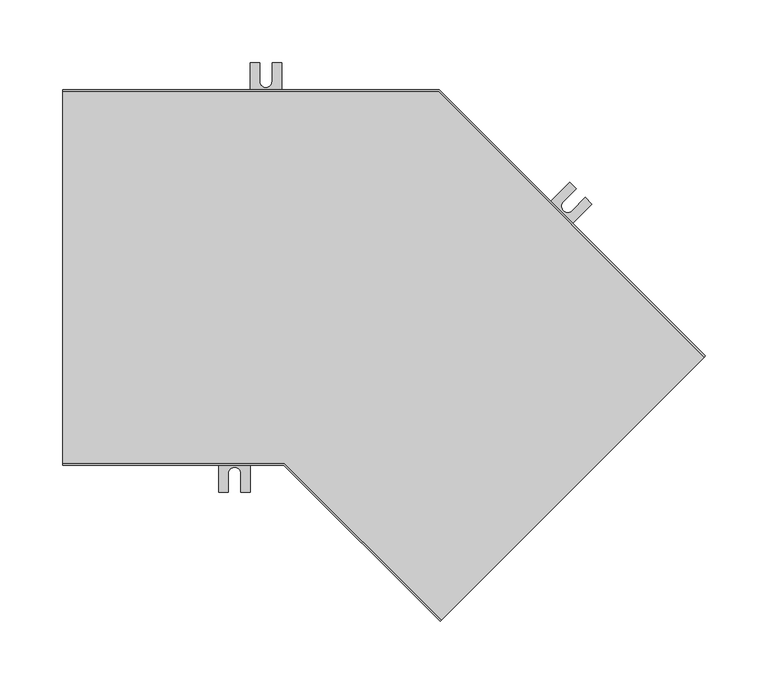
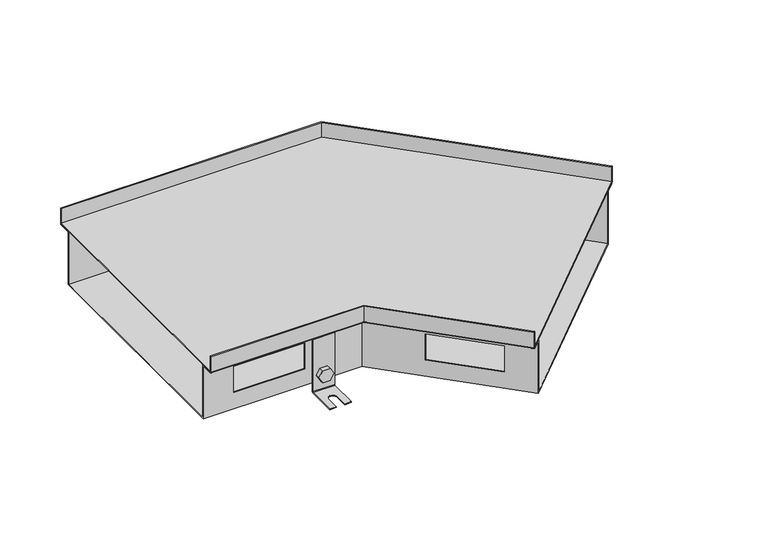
"""IFC4 building model written with IfcOpenShell, lengths in millimetres: proxy geometry, TECHNO_Угловой элемент_KVU : 300_085_135°."""

from ifc_helpers import new_model, si_unit, point, frame, frame_2d, origin, place, context, project, spatial, polyline, circle_curve, ellipse_curve, trimmed, segment, composite_curve, outline, extrude, source, transform, mapped, element, save
from ifc_brep_helpers import plane_surface, cylinder_surface, revolved_surface, advanced_brep


def mechanical_equipment_76edeb39(model_context):
    return source(origin(), model_context, "Body", "SolidModel", [
        extrude(outline(composite_curve([segment(trimmed(circle_curve(frame_2d((0.0, -7.5000001)), 7.5), [point((0.0, -15.0))], [point((0.0, 0.0))], False, "CARTESIAN"), True, "CONTINUOUS"), segment(trimmed(circle_curve(frame_2d((0.0, -7.5000001)), 7.5), [point((0.0, 0.0))], [point((0.0, -15.0))], False, "CARTESIAN"), True, "CONTINUOUS")], self_intersect=False)), frame((361.7404725, -31.0900467, -75.5), z_axis=(0.7071067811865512, 0.7071067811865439, 0.0), x_axis=(0.0, 0.0, 1.0)), (0.0, 0.0, 1.0), 1.5),
        extrude(outline(polyline([(0.0, 0.0), (8.660254, 1e-07), (12.990381, -7.5), (8.660254, -15.0), (0.0, -15.0), (-4.3301271, -7.4999999), (0.0, 0.0)])), frame((345.8586746, -24.1177942, -75.5), z_axis=(0.7071067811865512, 0.7071067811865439, 0.0), x_axis=(0.3535533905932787, -0.3535533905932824, -0.8660254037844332)), (0.0, 0.0, 1.0), 5.1),
        advanced_brep(
        [(364.4274783, -35.4741087, -30.5), (364.4274783, -35.4741087, -93.5), (363.8617928, -36.0397941, -94.3), (340.5272691, -59.3743179, -94.3), (340.5272691, -59.3743179, -95.5), (363.8617928, -36.0397941, -95.5), (365.2760064, -34.6255806, -93.5), (365.2760064, -34.6255806, -30.5), (346.7498087, -17.7964392, -30.5), (347.5983369, -16.947911, -30.5), (347.5983369, -16.947911, -93.5), (346.1841233, -18.3621246, -95.5), (322.8495995, -41.6966484, -95.5), (322.8495995, -41.6966484, -94.3), (346.1841233, -18.3621246, -94.3), (346.7498087, -17.7964392, -93.5), (328.1529004, -46.9999492, -94.3), (338.7595021, -36.3933475, -94.3), (345.8305699, -43.4644153, -94.3), (335.2239682, -54.0710171, -94.3), (335.2239682, -54.0710171, -95.5), (328.1529004, -46.9999492, -95.5), (345.8305699, -43.4644153, -95.5), (338.7595021, -36.3933475, -95.5)],
        [
            (0, 1),
            (1, 2, circle_curve(frame((363.8617928, -36.0397941, -93.5), z_axis=(-0.7071067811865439, 0.7071067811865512, 0.0), x_axis=(-0.7071067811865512, -0.7071067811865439, 0.0)), 0.8)),
            (2, 3),
            (3, 4),
            (4, 5),
            (5, 6, circle_curve(frame((363.8617928, -36.0397941, -93.5), z_axis=(0.7071067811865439, -0.7071067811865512, 0.0), x_axis=(-0.7071067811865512, -0.7071067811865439, 0.0)), 2.0)),
            (6, 7),
            (7, 0),
            (8, 9),
            (9, 10),
            (10, 11, circle_curve(frame((346.1841233, -18.3621246, -93.5), z_axis=(-0.7071067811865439, 0.7071067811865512, 0.0), x_axis=(-0.7071067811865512, -0.7071067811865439, 0.0)), 2.0)),
            (11, 12),
            (12, 13),
            (13, 14),
            (14, 15, circle_curve(frame((346.1841233, -18.3621246, -93.5), z_axis=(0.7071067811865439, -0.7071067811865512, 0.0), x_axis=(-0.7071067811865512, -0.7071067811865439, 0.0)), 0.8)),
            (15, 8),
            (0, 8),
            (15, 1),
            (14, 2),
            (13, 16),
            (16, 17),
            (17, 18, circle_curve(frame((342.295036, -39.9288814, -94.3), z_axis=(0.0, 0.0, -1.0), x_axis=(0.7071067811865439, -0.7071067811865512, 0.0)), 5.0)),
            (18, 19),
            (19, 3),
            (19, 20),
            (20, 4),
            (12, 21),
            (21, 16),
            (20, 22),
            (22, 23, circle_curve(frame((342.295036, -39.9288814, -95.5), z_axis=(0.0, 0.0, 1.0), x_axis=(0.7071067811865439, -0.7071067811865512, 0.0)), 5.0)),
            (23, 21),
            (11, 5),
            (10, 6),
            (9, 7),
            (23, 17),
            (18, 22),
        ],
        [
            plane_surface(frame((364.4274783, -35.4741087, -30.5), z_axis=(0.7071067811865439, -0.7071067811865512, 0.0), x_axis=(0.0, 0.0, -1.0))),
            plane_surface(frame((346.7498087, -17.7964392, -30.5), z_axis=(-0.7071067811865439, 0.7071067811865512, 0.0), x_axis=(0.0, 0.0, 1.0))),
            plane_surface(frame((364.4274783, -35.4741087, -30.5), z_axis=(-0.7071067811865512, -0.7071067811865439, 0.0), x_axis=(-0.7071067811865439, 0.7071067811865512, 0.0))),
            revolved_surface(polyline([(345.61843787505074, -18.92781002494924, -93.5), (363.29610742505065, -36.605479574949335, -93.5)]), (346.1841233, -18.3621246, -93.5), (-0.7071067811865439, 0.7071067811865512, 0.0)),
            plane_surface(frame((363.8617928, -36.0397941, -94.3), z_axis=(0.0, 0.0, 1.0), x_axis=(-0.7071067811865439, 0.7071067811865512, 0.0))),
            plane_surface(frame((340.5272691, -59.3743179, -94.3), z_axis=(-0.7071067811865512, -0.7071067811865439, 0.0), x_axis=(-0.7071067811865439, 0.7071067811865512, 0.0))),
            plane_surface(frame((340.5272691, -59.3743179, -95.5), z_axis=(0.0, 0.0, -1.0), x_axis=(-0.7071067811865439, 0.7071067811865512, 0.0))),
            cylinder_surface(frame((346.1841233, -18.3621246, -93.5), z_axis=(0.7071067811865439, -0.7071067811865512, 0.0), x_axis=(-0.7071067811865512, -0.7071067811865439, 0.0)), 2.0),
            plane_surface(frame((365.2760064, -34.6255806, -93.5), z_axis=(0.7071067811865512, 0.7071067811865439, 0.0), x_axis=(-0.7071067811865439, 0.7071067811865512, 0.0))),
            plane_surface(frame((365.2760064, -34.6255806, -30.5), z_axis=(0.0, 0.0, 1.0), x_axis=(-0.7071067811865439, 0.7071067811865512, 0.0))),
            plane_surface(frame((338.7595021, -36.3933475, -94.3), z_axis=(0.7071067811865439, -0.7071067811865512, 0.0), x_axis=(0.0, 0.0, -1.0))),
            plane_surface(frame((335.2239682, -54.0710171, -94.3), z_axis=(-0.707106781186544, 0.7071067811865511, 0.0), x_axis=(0.0, 0.0, -1.0))),
            revolved_surface(polyline([(345.8305699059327, -43.46441530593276, -94.3), (345.8305699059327, -43.46441530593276, -95.5)]), (342.295036, -39.9288814, -95.5), (0.0, 0.0, 1.0)),
        ],
        [
            (0, [[1, 2, 3, 4, 5, 6, 7, 8]]),
            (1, [[9, 10, 11, 12, 13, 14, 15, 16]]),
            (2, [[-1, 17, -16, 18]]),
            (3, [[-2, -18, -15, 19]]),
            (4, [[-3, -19, -14, 20, 21, 22, 23, 24]]),
            (5, [[-4, -24, 25, 26]]),
            (5, [[-13, 27, 28, -20]]),
            (6, [[-5, -26, 29, 30, 31, -27, -12, 32]]),
            (7, [[-6, -32, -11, 33]]),
            (8, [[-7, -33, -10, 34]]),
            (9, [[-8, -34, -9, -17]]),
            (10, [[35, -21, -28, -31]]),
            (11, [[36, -29, -25, -23]]),
            (12, [[-35, -30, -36, -22]]),
        ],
    ),
        extrude(outline(composite_curve([segment(trimmed(circle_curve(frame_2d((0.0, -7.5)), 7.5), [point((0.0, -15.0))], [point((0.0, 0.0))], False, "CARTESIAN"), True, "CONTINUOUS"), segment(trimmed(circle_curve(frame_2d((0.0, -7.5)), 7.5), [point((0.0, 0.0))], [point((0.0, -15.0))], False, "CARTESIAN"), True, "CONTINUOUS")], self_intersect=False)), frame((383.165808, 46.9038313, -75.5), z_axis=(0.7071067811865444, 0.7071067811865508, 0.0), x_axis=(0.0, 0.0, -1.0)), (0.0, 0.0, 1.0), 1.5),
        extrude(outline(polyline([(0.0, 0.0), (4.330127, -7.5), (0.0, -15.0), (-8.660254, -15.0), (-12.990381, -7.5), (-8.6602541, 0.0), (0.0, 0.0)])), frame((396.5020215, 37.3859944, -75.5), z_axis=(0.7071067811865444, 0.7071067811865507, 0.0), x_axis=(0.35355339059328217, -0.35355339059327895, 0.8660254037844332)), (0.0, 0.0, 1.0), 5.1),
        advanced_brep(
        [(381.5394624, 52.3485535, -30.5), (381.5394624, 52.3485535, -93.5), (382.1051478, 52.9142389, -94.3), (405.4396716, 76.2487627, -94.3), (405.4396716, 76.2487627, -95.5), (382.1051478, 52.9142389, -95.5), (380.6909342, 51.5000254, -93.5), (380.6909342, 51.5000254, -30.5), (399.2171319, 34.670884, -30.5), (398.3686038, 33.8223559, -30.5), (398.3686038, 33.8223559, -93.5), (399.7828173, 35.2365694, -95.5), (423.1173411, 58.5710932, -95.5), (423.1173411, 58.5710932, -94.3), (399.7828173, 35.2365694, -94.3), (399.2171319, 34.670884, -93.5), (417.8140403, 63.8743941, -94.3), (407.2074385, 53.2677923, -94.3), (400.1363707, 60.3388601, -94.3), (410.7429724, 70.9454619, -94.3), (410.7429724, 70.9454619, -95.5), (417.8140403, 63.8743941, -95.5), (400.1363707, 60.3388601, -95.5), (407.2074385, 53.2677923, -95.5)],
        [
            (0, 1),
            (1, 2, circle_curve(frame((382.1051478, 52.9142389, -93.5), z_axis=(0.7071067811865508, -0.7071067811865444, 0.0), x_axis=(0.7071067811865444, 0.7071067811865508, 0.0)), 0.8)),
            (2, 3),
            (3, 4),
            (4, 5),
            (5, 6, circle_curve(frame((382.1051478, 52.9142389, -93.5), z_axis=(-0.7071067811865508, 0.7071067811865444, 0.0), x_axis=(0.7071067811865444, 0.7071067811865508, 0.0)), 2.0)),
            (6, 7),
            (7, 0),
            (8, 9),
            (9, 10),
            (10, 11, circle_curve(frame((399.7828173, 35.2365694, -93.5), z_axis=(0.7071067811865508, -0.7071067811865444, 0.0), x_axis=(0.7071067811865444, 0.7071067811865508, 0.0)), 2.0)),
            (11, 12),
            (12, 13),
            (13, 14),
            (14, 15, circle_curve(frame((399.7828173, 35.2365694, -93.5), z_axis=(-0.7071067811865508, 0.7071067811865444, 0.0), x_axis=(0.7071067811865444, 0.7071067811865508, 0.0)), 0.8)),
            (15, 8),
            (0, 8),
            (15, 1),
            (14, 2),
            (13, 16),
            (16, 17),
            (17, 18, circle_curve(frame((403.6719046, 56.8033262, -94.3), z_axis=(0.0, 0.0, -1.0), x_axis=(-0.7071067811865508, 0.7071067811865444, 0.0)), 5.0)),
            (18, 19),
            (19, 3),
            (19, 20),
            (20, 4),
            (12, 21),
            (21, 16),
            (20, 22),
            (22, 23, circle_curve(frame((403.6719046, 56.8033262, -95.5), z_axis=(0.0, 0.0, 1.0), x_axis=(-0.7071067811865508, 0.7071067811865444, 0.0)), 5.0)),
            (23, 21),
            (11, 5),
            (10, 6),
            (9, 7),
            (23, 17),
            (18, 22),
        ],
        [
            plane_surface(frame((381.5394624, 52.3485535, -30.5), z_axis=(-0.7071067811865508, 0.7071067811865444, 0.0), x_axis=(0.0, 0.0, -1.0))),
            plane_surface(frame((399.2171319, 34.670884, -30.5), z_axis=(0.7071067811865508, -0.7071067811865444, 0.0), x_axis=(0.0, 0.0, 1.0))),
            plane_surface(frame((381.5394624, 52.3485535, -30.5), z_axis=(0.7071067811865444, 0.7071067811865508, 0.0), x_axis=(0.7071067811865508, -0.7071067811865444, 0.0))),
            revolved_surface(polyline([(400.3485027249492, 35.80225482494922, -93.5), (382.6708332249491, 53.47992432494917, -93.5)]), (399.7828173, 35.2365694, -93.5), (0.7071067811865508, -0.7071067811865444, 0.0)),
            plane_surface(frame((382.1051478, 52.9142389, -94.3), z_axis=(0.0, 0.0, 1.0000000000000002), x_axis=(0.7071067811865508, -0.7071067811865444, 0.0))),
            plane_surface(frame((405.4396716, 76.2487627, -94.3), z_axis=(0.7071067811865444, 0.7071067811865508, 0.0), x_axis=(0.7071067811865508, -0.7071067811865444, 0.0))),
            plane_surface(frame((405.4396716, 76.2487627, -95.5), z_axis=(0.0, 0.0, -1.0000000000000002), x_axis=(0.7071067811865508, -0.7071067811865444, 0.0))),
            cylinder_surface(frame((399.7828173, 35.2365694, -93.5), z_axis=(-0.7071067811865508, 0.7071067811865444, 0.0), x_axis=(0.7071067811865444, 0.7071067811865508, 0.0)), 2.0),
            plane_surface(frame((380.6909342, 51.5000254, -93.5), z_axis=(-0.7071067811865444, -0.7071067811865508, 0.0), x_axis=(0.7071067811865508, -0.7071067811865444, 0.0))),
            plane_surface(frame((380.6909342, 51.5000254, -30.5), z_axis=(0.0, 0.0, 1.0000000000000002), x_axis=(0.7071067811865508, -0.7071067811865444, 0.0))),
            plane_surface(frame((407.2074385, 53.2677923, -94.3), z_axis=(-0.7071067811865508, 0.7071067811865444, 0.0), x_axis=(0.0, 0.0, -1.0))),
            plane_surface(frame((410.7429724, 70.9454619, -94.3), z_axis=(0.7071067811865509, -0.7071067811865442, 0.0), x_axis=(0.0, 0.0, -1.0))),
            revolved_surface(polyline([(400.13637069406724, 60.338860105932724, -94.3), (400.13637069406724, 60.338860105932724, -95.5)]), (403.6719046, 56.8033262, -95.5), (0.0, 0.0, 1.0)),
        ],
        [
            (0, [[1, 2, 3, 4, 5, 6, 7, 8]]),
            (1, [[9, 10, 11, 12, 13, 14, 15, 16]]),
            (2, [[-1, 17, -16, 18]]),
            (3, [[-2, -18, -15, 19]]),
            (4, [[-3, -19, -14, 20, 21, 22, 23, 24]]),
            (5, [[-4, -24, 25, 26]]),
            (5, [[-13, 27, 28, -20]]),
            (6, [[-5, -26, 29, 30, 31, -27, -12, 32]]),
            (7, [[-6, -32, -11, 33]]),
            (8, [[-7, -33, -10, 34]]),
            (9, [[-8, -34, -9, -17]]),
            (10, [[35, -21, -28, -31]]),
            (11, [[36, -29, -25, -23]]),
            (12, [[-35, -30, -36, -22]]),
        ],
    ),
        extrude(outline(composite_curve([segment(trimmed(circle_curve(frame_2d((-75.5, 162.5)), 7.5), [point((-75.5, 155.0))], [point((-75.5, 170.0))], False, "CARTESIAN"), True, "CONTINUOUS"), segment(trimmed(circle_curve(frame_2d((-75.5, 162.5)), 7.5), [point((-75.5, 170.0))], [point((-75.5, 155.0))], False, "CARTESIAN"), True, "CONTINUOUS")], self_intersect=False)), frame((0.0, 135.2, 0.0), z_axis=(0.0, 1.0, 0.0), x_axis=(0.0, 0.0, 1.0)), (0.0, 0.0, 1.0), 1.5),
        extrude(outline(polyline([(-75.5, 153.839746), (-83.0, 158.169873), (-83.0, 166.830127), (-75.5, 171.160254), (-68.0, 166.830127), (-68.0, 158.169873), (-75.5, 153.839746)])), frame((0.0, 137.9, 0.0), z_axis=(0.0, 1.0, 0.0), x_axis=(0.0, 0.0, 1.0)), (0.0, 0.0, 1.0), 5.1),
        advanced_brep(
        [(175.0, 137.9, -30.5), (175.0, 136.7, -30.5), (175.0, 136.7, -93.5), (175.0, 138.7, -95.5), (175.0, 171.7, -95.5), (175.0, 171.7, -94.3), (175.0, 138.7, -94.3), (175.0, 137.9, -93.5), (150.0, 137.9, -30.5), (150.0, 137.9, -93.5), (150.0, 138.7, -94.3), (150.0, 171.7, -94.3), (150.0, 171.7, -95.5), (150.0, 138.7, -95.5), (150.0, 136.7, -93.5), (150.0, 136.7, -30.5), (167.5, 171.7, -94.3), (167.5, 156.7, -94.3), (157.5, 156.7, -94.3), (157.5, 171.7, -94.3), (157.5, 171.7, -95.5), (167.5, 171.7, -95.5), (157.5, 156.7, -95.5), (167.5, 156.7, -95.5)],
        [
            (0, 1),
            (1, 2),
            (2, 3, circle_curve(frame((175.0, 138.7, -93.5), z_axis=(1.0, 0.0, 0.0), x_axis=(0.0, 1.0, 0.0)), 2.0)),
            (3, 4),
            (4, 5),
            (5, 6),
            (6, 7, circle_curve(frame((175.0, 138.7, -93.5), z_axis=(-1.0, 0.0, 0.0), x_axis=(0.0, 1.0, 0.0)), 0.8)),
            (7, 0),
            (8, 9),
            (9, 10, circle_curve(frame((150.0, 138.7, -93.5), z_axis=(1.0, 0.0, 0.0), x_axis=(0.0, 1.0, 0.0)), 0.8)),
            (10, 11),
            (11, 12),
            (12, 13),
            (13, 14, circle_curve(frame((150.0, 138.7, -93.5), z_axis=(-1.0, 0.0, 0.0), x_axis=(0.0, 1.0, 0.0)), 2.0)),
            (14, 15),
            (15, 8),
            (7, 9),
            (8, 0),
            (6, 10),
            (5, 16),
            (16, 17),
            (17, 18, circle_curve(frame((162.5, 156.7, -94.3), z_axis=(0.0, 0.0, -1.0), x_axis=(1.0, 0.0, 0.0)), 5.0)),
            (18, 19),
            (19, 11),
            (19, 20),
            (20, 12),
            (4, 21),
            (21, 16),
            (3, 13),
            (20, 22),
            (22, 23, circle_curve(frame((162.5, 156.7, -95.5), z_axis=(0.0, 0.0, 1.0), x_axis=(1.0, 0.0, 0.0)), 5.0)),
            (23, 21),
            (2, 14),
            (1, 15),
            (18, 22),
            (23, 17),
        ],
        [
            plane_surface(frame((175.0, 137.9, -30.5), z_axis=(1.0, 0.0, 0.0), x_axis=(0.0, 0.0, -1.0))),
            plane_surface(frame((150.0, 137.9, -30.5), z_axis=(-1.0, 0.0, 0.0), x_axis=(0.0, 0.0, 1.0))),
            plane_surface(frame((175.0, 137.9, -30.5), z_axis=(0.0, 1.0, 0.0), x_axis=(-1.0, 0.0, 0.0))),
            revolved_surface(polyline([(150.0, 139.5, -93.5), (175.0, 139.5, -93.5)]), (150.0, 138.7, -93.5), (-1.0, 0.0, 0.0)),
            plane_surface(frame((175.0, 138.7, -94.3), z_axis=(0.0, 0.0, 1.0), x_axis=(-1.0, 0.0, 0.0))),
            plane_surface(frame((175.0, 171.7, -94.3), z_axis=(0.0, 1.0, 0.0), x_axis=(-1.0, 0.0, 0.0))),
            plane_surface(frame((175.0, 171.7, -95.5), z_axis=(0.0, 0.0, -1.0), x_axis=(-1.0, 0.0, 0.0))),
            cylinder_surface(frame((150.0, 138.7, -93.5), z_axis=(1.0, 0.0, 0.0), x_axis=(0.0, 1.0, 0.0)), 2.0),
            plane_surface(frame((175.0, 136.7, -93.5), z_axis=(0.0, -1.0, 0.0), x_axis=(-1.0, 0.0, 0.0))),
            plane_surface(frame((175.0, 136.7, -30.5), z_axis=(0.0, 0.0, 1.0), x_axis=(-1.0, 0.0, 0.0))),
            plane_surface(frame((157.5, 156.7, -94.3), z_axis=(1.0, 0.0, 0.0), x_axis=(0.0, 0.0, -1.0))),
            plane_surface(frame((167.5, 171.7, -94.3), z_axis=(-1.0, 0.0, 0.0), x_axis=(0.0, 0.0, -1.0))),
            revolved_surface(polyline([(167.5, 156.7, -94.3), (167.5, 156.7, -95.5)]), (162.5, 156.7, -95.5), (0.0, 0.0, 1.0)),
        ],
        [
            (0, [[1, 2, 3, 4, 5, 6, 7, 8]]),
            (1, [[9, 10, 11, 12, 13, 14, 15, 16]]),
            (2, [[17, -9, 18, -8]]),
            (3, [[19, -10, -17, -7]]),
            (4, [[20, 21, 22, 23, 24, -11, -19, -6]]),
            (5, [[-24, 25, 26, -12]]),
            (5, [[27, 28, -20, -5]]),
            (6, [[29, -13, -26, 30, 31, 32, -27, -4]]),
            (7, [[33, -14, -29, -3]]),
            (8, [[34, -15, -33, -2]]),
            (9, [[-18, -16, -34, -1]]),
            (10, [[-30, -25, -23, 35]]),
            (11, [[-21, -28, -32, 36]]),
            (12, [[-22, -36, -31, -35]]),
        ],
    ),
        extrude(outline(composite_curve([segment(trimmed(circle_curve(frame_2d((-75.5, 137.5)), 7.5), [point((-75.5, 130.0))], [point((-75.5, 145.0))], False, "CARTESIAN"), True, "CONTINUOUS"), segment(trimmed(circle_curve(frame_2d((-75.5, 137.5)), 7.5), [point((-75.5, 145.0))], [point((-75.5, 130.0))], False, "CARTESIAN"), True, "CONTINUOUS")], self_intersect=False)), frame((0.0, -136.7, 0.0), z_axis=(0.0, 1.0, 0.0), x_axis=(0.0, 0.0, 1.0)), (0.0, 0.0, 1.0), 1.5),
        extrude(outline(polyline([(-75.5, 128.839746), (-83.0, 133.169873), (-83.0, 141.830127), (-75.5, 146.160254), (-68.0, 141.830127), (-68.0, 133.169873), (-75.5, 128.839746)])), frame((0.0, -143.0, 0.0), z_axis=(0.0, 1.0, 0.0), x_axis=(0.0, 0.0, 1.0)), (0.0, 0.0, 1.0), 5.1),
        advanced_brep(
        [(150.0, -137.9, -30.5), (150.0, -137.9, -93.5), (150.0, -138.7, -94.3), (150.0, -171.7, -94.3), (150.0, -171.7, -95.5), (150.0, -138.7, -95.5), (150.0, -136.7, -93.5), (150.0, -136.7, -30.5), (125.0, -137.9, -30.5), (125.0, -136.7, -30.5), (125.0, -136.7, -93.5), (125.0, -138.7, -95.5), (125.0, -171.7, -95.5), (125.0, -171.7, -94.3), (125.0, -138.7, -94.3), (125.0, -137.9, -93.5), (132.5, -171.7, -94.3), (132.5, -156.7, -94.3), (142.5, -156.7, -94.3), (142.5, -171.7, -94.3), (142.5, -171.7, -95.5), (132.5, -171.7, -95.5), (142.5, -156.7, -95.5), (132.5, -156.7, -95.5)],
        [
            (0, 1),
            (1, 2, circle_curve(frame((150.0, -138.7, -93.5), z_axis=(-1.0, 0.0, 0.0), x_axis=(0.0, -1.0, 0.0)), 0.8)),
            (2, 3),
            (3, 4),
            (4, 5),
            (5, 6, circle_curve(frame((150.0, -138.7, -93.5), z_axis=(1.0, 0.0, 0.0), x_axis=(0.0, -1.0, 0.0)), 2.0)),
            (6, 7),
            (7, 0),
            (8, 9),
            (9, 10),
            (10, 11, circle_curve(frame((125.0, -138.7, -93.5), z_axis=(-1.0, 0.0, 0.0), x_axis=(0.0, -1.0, 0.0)), 2.0)),
            (11, 12),
            (12, 13),
            (13, 14),
            (14, 15, circle_curve(frame((125.0, -138.7, -93.5), z_axis=(1.0, 0.0, 0.0), x_axis=(0.0, -1.0, 0.0)), 0.8)),
            (15, 8),
            (0, 8),
            (15, 1),
            (14, 2),
            (13, 16),
            (16, 17),
            (17, 18, circle_curve(frame((137.5, -156.7, -94.3), z_axis=(0.0, 0.0, -1.0), x_axis=(1.0, 0.0, 0.0)), 5.0)),
            (18, 19),
            (19, 3),
            (19, 20),
            (20, 4),
            (12, 21),
            (21, 16),
            (20, 22),
            (22, 23, circle_curve(frame((137.5, -156.7, -95.5), z_axis=(0.0, 0.0, 1.0), x_axis=(1.0, 0.0, 0.0)), 5.0)),
            (23, 21),
            (11, 5),
            (10, 6),
            (9, 7),
            (23, 17),
            (18, 22),
        ],
        [
            plane_surface(frame((150.0, -137.9, -30.5), z_axis=(1.0, 0.0, 0.0), x_axis=(0.0, 0.0, -1.0))),
            plane_surface(frame((125.0, -137.9, -30.5), z_axis=(-1.0, 0.0, 0.0), x_axis=(0.0, 0.0, 1.0))),
            plane_surface(frame((150.0, -137.9, -30.5), z_axis=(0.0, -1.0, 0.0), x_axis=(-1.0, 0.0, 0.0))),
            revolved_surface(polyline([(125.0, -139.5, -93.5), (150.0, -139.5, -93.5)]), (125.0, -138.7, -93.5), (-1.0, 0.0, 0.0)),
            plane_surface(frame((150.0, -138.7, -94.3), z_axis=(0.0, 0.0, 1.0), x_axis=(-1.0, 0.0, 0.0))),
            plane_surface(frame((150.0, -171.7, -94.3), z_axis=(0.0, -1.0, 0.0), x_axis=(-1.0, 0.0, 0.0))),
            plane_surface(frame((150.0, -171.7, -95.5), z_axis=(0.0, 0.0, -1.0), x_axis=(-1.0, 0.0, 0.0))),
            cylinder_surface(frame((125.0, -138.7, -93.5), z_axis=(1.0, 0.0, 0.0), x_axis=(0.0, -1.0, 0.0)), 2.0),
            plane_surface(frame((150.0, -136.7, -93.5), z_axis=(0.0, 1.0, 0.0), x_axis=(-1.0, 0.0, 0.0))),
            plane_surface(frame((150.0, -136.7, -30.5), z_axis=(0.0, 0.0, 1.0), x_axis=(-1.0, 0.0, 0.0))),
            plane_surface(frame((132.5, -156.7, -94.3), z_axis=(1.0, 0.0, 0.0), x_axis=(0.0, 0.0, -1.0))),
            plane_surface(frame((142.5, -171.7, -94.3), z_axis=(-1.0, 0.0, 0.0), x_axis=(0.0, 0.0, -1.0))),
            revolved_surface(polyline([(142.5, -156.7, -94.3), (142.5, -156.7, -95.5)]), (137.5, -156.7, -95.5), (0.0, 0.0, 1.0)),
        ],
        [
            (0, [[1, 2, 3, 4, 5, 6, 7, 8]]),
            (1, [[9, 10, 11, 12, 13, 14, 15, 16]]),
            (2, [[-1, 17, -16, 18]]),
            (3, [[-2, -18, -15, 19]]),
            (4, [[-3, -19, -14, 20, 21, 22, 23, 24]]),
            (5, [[-4, -24, 25, 26]]),
            (5, [[-13, 27, 28, -20]]),
            (6, [[-5, -26, 29, 30, 31, -27, -12, 32]]),
            (7, [[-6, -32, -11, 33]]),
            (8, [[-7, -33, -10, 34]]),
            (9, [[-8, -34, -9, -17]]),
            (10, [[35, -21, -28, -31]]),
            (11, [[36, -29, -25, -23]]),
            (12, [[-35, -30, -36, -22]]),
        ],
    ),
        extrude(outline(polyline([(512.990613, -63.6876693), (302.5556349, -274.1226474), (177.2329876, -148.8), (0.0, -148.8), (0.0, 148.8), (300.5029437, 148.8), (512.990613, -63.6876693)])), frame((0.0, 0.0, -19.3), z_axis=(0.0, 0.0, 1.0), x_axis=(1.0, 0.0, 0.0)), (0.0, 0.0, 1.0), 1.2),
        advanced_brep(
        [(301.7071068, -274.9711755, -19.3), (302.5556349, -274.1226474, -20.5), (312.1722871, -264.5059951, -20.5), (312.1722871, -264.5059951, -85.0), (503.3739608, -73.3043215, -85.0), (503.3739608, -73.3043215, -20.5), (512.990613, -63.6876693, -20.5), (513.8391411, -62.8391411, -19.3), (513.8391411, -62.8391411, 0.0), (512.990613, -63.6876693, 0.0), (512.990613, -63.6876693, -19.3), (503.3739608, -73.3043215, -19.3), (502.5254326, -74.1528496, -20.5), (502.5254326, -74.1528496, -83.8), (313.0208153, -263.657467, -83.8), (313.0208153, -263.657467, -20.5), (312.1722871, -264.5059951, -19.3), (302.5556349, -274.1226474, -19.3), (302.5556349, -274.1226474, 0.0), (301.7071068, -274.9711755, 0.0), (0.0, -150.0, -19.3), (0.0, -150.0, 0.0), (0.0, -148.8, 0.0), (0.0, -148.8, -19.3), (0.0, -135.2, -19.3), (0.0, -134.0, -20.5), (0.0, -134.0, -83.8), (0.0, 134.0, -83.8), (0.0, 134.0, -20.5), (0.0, 135.2, -19.3), (0.0, 148.8, -19.3), (0.0, 148.8, 0.0), (0.0, 150.0, 0.0), (0.0, 150.0, -19.3), (0.0, 148.8, -20.5), (0.0, 135.2, -20.5), (0.0, 135.2, -85.0), (0.0, -135.2, -85.0), (0.0, -135.2, -20.5), (0.0, -148.8, -20.5), (177.2329876, -148.8, -20.5), (176.7359313, -150.0, -19.3), (177.2329876, -148.8, 0.0), (177.2329876, -148.8, -19.3), (182.866292, -135.2, -85.0), (182.866292, -135.2, -20.5), (35.0, -135.2, -33.0), (117.0, -135.2, -33.0), (117.0, -135.2, -65.0), (35.0, -135.2, -65.0), (183.3633483, -134.0, -20.5), (183.3633483, -134.0, -83.8), (117.0, -134.0, -33.0), (35.0, -134.0, -33.0), (35.0, -134.0, -65.0), (117.0, -134.0, -65.0), (182.866292, -135.2, -19.3), (229.4407937, -181.7745017, -33.0), (287.4235498, -239.7572578, -33.0), (287.4235498, -239.7572578, -65.0), (229.4407937, -181.7745017, -65.0), (294.8696393, 135.2, -85.0), (294.372583, 134.0, -83.8), (288.2720779, -238.9087297, -33.0), (230.2893219, -180.9259736, -33.0), (230.2893219, -180.9259736, -65.0), (288.2720779, -238.9087297, -65.0), (176.7359313, -150.0, 0.0), (294.8696393, 135.2, -20.5), (478.6252234, -48.5555842, -33.0), (420.6424674, 9.4271719, -33.0), (420.6424674, 9.4271719, -65.0), (478.6252234, -48.5555842, -65.0), (300.5029437, 148.8, -20.5), (301.0, 150.0, -19.3), (301.0, 150.0, 0.0), (300.5029437, 148.8, 0.0), (300.5029437, 148.8, -19.3), (294.8696393, 135.2, -19.3), (294.372583, 134.0, -20.5), (419.7939392, 8.5786438, -33.0), (477.7766953, -49.4041123, -33.0), (477.7766953, -49.4041123, -65.0), (419.7939392, 8.5786438, -65.0), (117.0, 135.2, -33.0), (35.0, 135.2, -33.0), (35.0, 135.2, -65.0), (117.0, 135.2, -65.0), (35.0, 134.0, -33.0), (117.0, 134.0, -33.0), (117.0, 134.0, -65.0), (35.0, 134.0, -65.0)],
        [
            (0, 1, circle_curve(frame((302.5556349, -274.1226474, -19.3), z_axis=(0.7071067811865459, -0.7071067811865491, 0.0), x_axis=(-0.7071067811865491, -0.7071067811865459, 0.0)), 1.2)),
            (1, 2),
            (2, 3),
            (3, 4),
            (4, 5),
            (5, 6),
            (6, 7, circle_curve(frame((512.990613, -63.6876693, -19.3), z_axis=(0.7071067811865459, -0.7071067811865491, 0.0), x_axis=(-0.7071067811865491, -0.7071067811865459, 0.0)), 1.2)),
            (7, 8),
            (8, 9),
            (9, 10),
            (10, 11),
            (11, 12, circle_curve(frame((503.3739608, -73.3043215, -20.5), z_axis=(0.7071067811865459, -0.7071067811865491, 0.0), x_axis=(-0.7071067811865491, -0.7071067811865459, 0.0)), 1.2)),
            (12, 13),
            (13, 14),
            (14, 15),
            (15, 16, circle_curve(frame((312.1722871, -264.5059951, -20.5), z_axis=(0.7071067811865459, -0.7071067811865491, 0.0), x_axis=(-0.7071067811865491, -0.7071067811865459, 0.0)), 1.2)),
            (16, 17),
            (17, 18),
            (18, 19),
            (19, 0),
            (20, 21),
            (21, 22),
            (22, 23),
            (23, 24),
            (24, 25, circle_curve(frame((0.0, -135.2, -20.5), z_axis=(-1.0, 0.0, 0.0), x_axis=(0.0, -1.0, 0.0)), 1.2)),
            (25, 26),
            (26, 27),
            (27, 28),
            (28, 29, circle_curve(frame((0.0, 135.2, -20.5), z_axis=(-1.0, 0.0, 0.0), x_axis=(0.0, -1.0, 0.0)), 1.2)),
            (29, 30),
            (30, 31),
            (31, 32),
            (32, 33),
            (33, 34, circle_curve(frame((0.0, 148.8, -19.3), z_axis=(-1.0, 0.0, 0.0), x_axis=(0.0, -1.0, 0.0)), 1.2)),
            (34, 35),
            (35, 36),
            (36, 37),
            (37, 38),
            (38, 39),
            (39, 20, circle_curve(frame((0.0, -148.8, -19.3), z_axis=(-1.0, 0.0, 0.0), x_axis=(0.0, -1.0, 0.0)), 1.2)),
            (39, 40),
            (40, 41, ellipse_curve(frame((177.2329876, -148.8, -19.3), z_axis=(-0.9238795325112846, 0.3826834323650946, 0.0), x_axis=(0.38268343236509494, 0.9238795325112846, 0.0)), 1.2988706, 1.2)),
            (41, 20),
            (22, 42),
            (42, 43),
            (43, 23),
            (37, 44),
            (44, 45),
            (45, 38),
            (46, 47),
            (47, 48),
            (48, 49),
            (49, 46),
            (25, 50),
            (50, 51),
            (51, 26),
            (52, 53),
            (53, 54),
            (54, 55),
            (55, 52),
            (24, 56),
            (56, 50, ellipse_curve(frame((182.866292, -135.2, -20.5), z_axis=(-0.9238795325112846, 0.3826834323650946, 0.0), x_axis=(0.38268343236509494, 0.9238795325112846, 0.0)), 1.2988706, 1.2)),
            (0, 41),
            (40, 1),
            (45, 2),
            (44, 3),
            (57, 58),
            (58, 59),
            (59, 60),
            (60, 57),
            (36, 61),
            (61, 4),
            (13, 62),
            (62, 27),
            (51, 14),
            (50, 15),
            (63, 64),
            (64, 65),
            (65, 66),
            (66, 63),
            (56, 16),
            (43, 17),
            (42, 18),
            (21, 67),
            (67, 19),
            (61, 68),
            (68, 5),
            (69, 70),
            (70, 71),
            (71, 72),
            (72, 69),
            (68, 35),
            (34, 73),
            (73, 6),
            (73, 74, ellipse_curve(frame((300.5029437, 148.8, -19.3), z_axis=(0.9238795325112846, -0.3826834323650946, 0.0), x_axis=(-0.38268343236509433, -0.9238795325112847, 0.0)), 1.2988706, 1.2)),
            (74, 7),
            (74, 75),
            (75, 8),
            (75, 32),
            (31, 76),
            (76, 9),
            (76, 77),
            (77, 10),
            (77, 30),
            (29, 78),
            (78, 11),
            (78, 79, ellipse_curve(frame((294.8696393, 135.2, -20.5), z_axis=(0.9238795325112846, -0.3826834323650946, 0.0), x_axis=(-0.38268343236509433, -0.9238795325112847, 0.0)), 1.2988706, 1.2)),
            (79, 12),
            (79, 62),
            (80, 81),
            (81, 82),
            (82, 83),
            (83, 80),
            (84, 85),
            (85, 86),
            (86, 87),
            (87, 84),
            (33, 74),
            (28, 79),
            (88, 89),
            (89, 90),
            (90, 91),
            (91, 88),
            (41, 67),
            (46, 53),
            (52, 47),
            (88, 85),
            (84, 89),
            (49, 54),
            (91, 86),
            (48, 55),
            (90, 87),
            (57, 64),
            (63, 58),
            (80, 70),
            (69, 81),
            (66, 59),
            (72, 82),
            (65, 60),
            (71, 83),
        ],
        [
            plane_surface(frame((407.773124, -168.9051583, 0.0), z_axis=(0.7071067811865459, -0.7071067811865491, 0.0), x_axis=(0.0, 0.0, 1.0))),
            plane_surface(frame((0.0, 0.0, 0.0), z_axis=(-1.0, 0.0, 0.0), x_axis=(0.0, 0.0, 1.0))),
            cylinder_surface(frame((238.8679656, -148.8, -19.3), z_axis=(1.0, 0.0, 0.0), x_axis=(0.0, -1.0, 0.0)), 1.2),
            plane_surface(frame((177.2329876, -148.8, -19.3), z_axis=(0.0, 1.0, 0.0), x_axis=(-1.0, 0.0, 0.0))),
            plane_surface(frame((182.866292, -135.2, -20.5), z_axis=(0.0, -1.0, 0.0), x_axis=(-1.0, 0.0, 0.0))),
            plane_surface(frame((183.3633483, -134.0, -83.8), z_axis=(0.0, 1.0, 0.0), x_axis=(-1.0, 0.0, 0.0))),
            cylinder_surface(frame((238.8679656, -135.2, -20.5), z_axis=(1.0, 0.0, 0.0), x_axis=(0.0, -1.0, 0.0)), 1.2),
            cylinder_surface(frame((302.5556349, -274.1226474, -19.3), z_axis=(0.7071067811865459, -0.7071067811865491, 0.0), x_axis=(-0.7071067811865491, -0.7071067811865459, 0.0)), 1.2),
            plane_surface(frame((302.5556349, -274.1226474, -20.5), z_axis=(0.0, 0.0, -1.0), x_axis=(-0.707106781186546, 0.7071067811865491, 0.0))),
            plane_surface(frame((312.1722871, -264.5059951, -20.5), z_axis=(-0.707106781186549, -0.7071067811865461, 0.0), x_axis=(-0.7071067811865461, 0.707106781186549, 0.0))),
            plane_surface(frame((312.1722871, -264.5059951, -85.0), z_axis=(0.0, 0.0, -1.0), x_axis=(-0.7071067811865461, 0.707106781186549, 0.0))),
            plane_surface(frame((502.5254326, -74.1528496, -83.8), z_axis=(0.0, 0.0, 1.0000000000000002), x_axis=(-0.7071067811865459, 0.7071067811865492, 0.0))),
            plane_surface(frame((313.0208153, -263.657467, -83.8), z_axis=(0.7071067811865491, 0.707106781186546, 0.0), x_axis=(-0.707106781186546, 0.7071067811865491, 0.0))),
            cylinder_surface(frame((312.1722871, -264.5059951, -20.5), z_axis=(0.7071067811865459, -0.7071067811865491, 0.0), x_axis=(-0.7071067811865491, -0.7071067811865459, 0.0)), 1.2),
            plane_surface(frame((312.1722871, -264.5059951, -19.3), z_axis=(0.0, 0.0, 1.0), x_axis=(-0.707106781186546, 0.7071067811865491, 0.0))),
            plane_surface(frame((302.5556349, -274.1226474, -19.3), z_axis=(0.7071067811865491, 0.707106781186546, 0.0), x_axis=(-0.707106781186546, 0.7071067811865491, 0.0))),
            plane_surface(frame((302.5556349, -274.1226474, 0.0), z_axis=(0.0, 0.0, 1.0), x_axis=(-0.707106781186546, 0.7071067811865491, 0.0))),
            plane_surface(frame((503.3739608, -73.3043215, -85.0), z_axis=(0.7071067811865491, 0.7071067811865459, 0.0), x_axis=(-0.7071067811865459, 0.7071067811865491, 0.0))),
            plane_surface(frame((503.3739608, -73.3043215, -20.5), z_axis=(0.0, 0.0, -1.0), x_axis=(-0.7071067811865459, 0.7071067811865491, 0.0))),
            cylinder_surface(frame((512.990613, -63.6876693, -19.3), z_axis=(0.7071067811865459, -0.7071067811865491, 0.0), x_axis=(-0.7071067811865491, -0.7071067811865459, 0.0)), 1.2),
            plane_surface(frame((513.8391411, -62.8391411, -19.3), z_axis=(0.707106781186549, 0.707106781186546, 0.0), x_axis=(-0.707106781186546, 0.707106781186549, 0.0))),
            plane_surface(frame((513.8391411, -62.8391411, 0.0), z_axis=(0.0, 0.0, 1.0), x_axis=(-0.707106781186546, 0.7071067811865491, 0.0))),
            plane_surface(frame((512.990613, -63.6876693, 0.0), z_axis=(-0.7071067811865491, -0.7071067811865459, 0.0), x_axis=(-0.7071067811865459, 0.7071067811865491, 0.0))),
            plane_surface(frame((512.990613, -63.6876693, -19.3), z_axis=(0.0, 0.0, 1.0), x_axis=(-0.7071067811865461, 0.707106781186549, 0.0))),
            cylinder_surface(frame((503.3739608, -73.3043215, -20.5), z_axis=(0.7071067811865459, -0.7071067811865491, 0.0), x_axis=(-0.7071067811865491, -0.7071067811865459, 0.0)), 1.2),
            plane_surface(frame((502.5254326, -74.1528496, -20.5), z_axis=(-0.7071067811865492, -0.7071067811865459, 0.0), x_axis=(-0.7071067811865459, 0.7071067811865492, 0.0))),
            plane_surface(frame((294.8696393, 135.2, -85.0), z_axis=(0.0, 1.0, 0.0), x_axis=(-1.0, 0.0, 0.0))),
            cylinder_surface(frame((238.8679656, 148.8, -19.3), z_axis=(1.0, 0.0, 0.0), x_axis=(0.0, -1.0, 0.0)), 1.2),
            plane_surface(frame((301.0, 150.0, -19.3), z_axis=(0.0, 1.0, 0.0), x_axis=(-1.0, 0.0, 0.0))),
            plane_surface(frame((300.5029437, 148.8, 0.0), z_axis=(0.0, -1.0, 0.0), x_axis=(-1.0, 0.0, 0.0))),
            cylinder_surface(frame((238.8679656, 135.2, -20.5), z_axis=(1.0, 0.0, 0.0), x_axis=(0.0, -1.0, 0.0)), 1.2),
            plane_surface(frame((294.372583, 134.0, -20.5), z_axis=(0.0, -1.0, 0.0), x_axis=(-1.0, 0.0, 0.0))),
            plane_surface(frame((176.7359313, -150.0, 0.0), z_axis=(0.0, -1.0, 0.0), x_axis=(-1.0, 0.0, 0.0))),
            plane_surface(frame((301.7071068, -274.9711755, 0.0), z_axis=(-0.7071067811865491, -0.7071067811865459, 0.0), x_axis=(-0.7071067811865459, 0.7071067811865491, 0.0))),
            plane_surface(frame((35.0, 150.0, -33.0), z_axis=(0.0, 0.0, -1.0), x_axis=(0.0, -1.0, 0.0))),
            plane_surface(frame((35.0, 150.0, -65.0), z_axis=(1.0, 0.0, 0.0), x_axis=(0.0, -1.0, 0.0))),
            plane_surface(frame((117.0, 150.0, -65.0), z_axis=(0.0, 0.0, 1.0), x_axis=(0.0, -1.0, 0.0))),
            plane_surface(frame((117.0, 150.0, -33.0), z_axis=(-1.0, 0.0, 0.0), x_axis=(0.0, -1.0, 0.0))),
            plane_surface(frame((431.1076477, 19.8923523, -33.0), z_axis=(0.0, 0.0, -1.0), x_axis=(-0.707106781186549, -0.707106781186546, 0.0))),
            plane_surface(frame((489.0904038, -38.0904038, -33.0), z_axis=(-0.707106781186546, 0.707106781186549, 0.0), x_axis=(-0.707106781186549, -0.707106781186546, 0.0))),
            plane_surface(frame((489.0904038, -38.0904038, -65.0), z_axis=(0.0, 0.0, 1.0), x_axis=(-0.707106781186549, -0.707106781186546, 0.0))),
            plane_surface(frame((431.1076477, 19.8923523, -65.0), z_axis=(0.707106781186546, -0.707106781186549, 0.0), x_axis=(-0.707106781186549, -0.707106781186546, 0.0))),
        ],
        [
            (0, [[1, 2, 3, 4, 5, 6, 7, 8, 9, 10, 11, 12, 13, 14, 15, 16, 17, 18, 19, 20]]),
            (1, [[21, 22, 23, 24, 25, 26, 27, 28, 29, 30, 31, 32, 33, 34, 35, 36, 37, 38, 39, 40]]),
            (2, [[-40, 41, 42, 43]]),
            (3, [[-23, 44, 45, 46]]),
            (4, [[-38, 47, 48, 49], [50, 51, 52, 53]]),
            (5, [[-26, 54, 55, 56], [57, 58, 59, 60]]),
            (6, [[-25, 61, 62, -54]]),
            (7, [[-1, 63, -42, 64]]),
            (8, [[-2, -64, -41, -39, -49, 65]]),
            (9, [[-3, -65, -48, 66], [67, 68, 69, 70]]),
            (10, [[-4, -66, -47, -37, 71, 72]]),
            (11, [[-14, 73, 74, -27, -56, 75]]),
            (12, [[-15, -75, -55, 76], [77, 78, 79, 80]]),
            (13, [[-16, -76, -62, 81]]),
            (14, [[-17, -81, -61, -24, -46, 82]]),
            (15, [[-18, -82, -45, 83]]),
            (16, [[-19, -83, -44, -22, 84, 85]]),
            (17, [[-5, -72, 86, 87], [88, 89, 90, 91]]),
            (18, [[-6, -87, 92, -35, 93, 94]]),
            (19, [[-7, -94, 95, 96]]),
            (20, [[-8, -96, 97, 98]]),
            (21, [[-9, -98, 99, -32, 100, 101]]),
            (22, [[-10, -101, 102, 103]]),
            (23, [[-11, -103, 104, -30, 105, 106]]),
            (24, [[-12, -106, 107, 108]]),
            (25, [[-13, -108, 109, -73], [110, 111, 112, 113]]),
            (26, [[-36, -92, -86, -71], [114, 115, 116, 117]]),
            (27, [[-34, 118, -95, -93]]),
            (28, [[-33, -99, -97, -118]]),
            (29, [[-31, -104, -102, -100]]),
            (30, [[-29, 119, -107, -105]]),
            (31, [[-28, -74, -109, -119], [120, 121, 122, 123]]),
            (32, [[-21, -43, 124, -84]]),
            (33, [[-20, -85, -124, -63]]),
            (34, [[125, -57, 126, -50]]),
            (34, [[127, -114, 128, -120]]),
            (35, [[-125, -53, 129, -58]]),
            (35, [[-127, -123, 130, -115]]),
            (36, [[-129, -52, 131, -59]]),
            (36, [[-130, -122, 132, -116]]),
            (37, [[-131, -51, -126, -60]]),
            (37, [[-132, -121, -128, -117]]),
            (38, [[133, -77, 134, -67]]),
            (38, [[135, -88, 136, -110]]),
            (39, [[-134, -80, 137, -68]]),
            (39, [[-136, -91, 138, -111]]),
            (40, [[-137, -79, 139, -69]]),
            (40, [[-138, -90, 140, -112]]),
            (41, [[-133, -70, -139, -78]]),
            (41, [[-135, -113, -140, -89]]),
        ],
    ),
    ])


if __name__ == "__main__":
    model = new_model("IFC4")
    model_context = context("Model", 3, world=origin())
    ifc_project = project(units=[si_unit("LENGTHUNIT", "METRE", prefix="MILLI")], contexts=[model_context])
    site = spatial("IfcSite", under=ifc_project)
    building = spatial("IfcBuilding", under=site)
    placement = place(None, origin())
    mechanical_equipment_shape = mechanical_equipment_76edeb39(model_context)
    element("IfcBuildingElementProxy", 1, Name="TECHNO_Угловой элемент_KVU : 300_085_135°", ObjectType="TECHNO_Угловой элемент_KVU : 300_085_135°", at=placement, inside=building, context=model_context, shape_type="MappedRepresentation", body=[
        mapped(mechanical_equipment_shape, transform((0.0, 0.0, 0.0), x_axis=(1.0, 0.0, 0.0), y_axis=(0.0, 1.0, 0.0), z_axis=(0.0, 0.0, 1.0))),
    ])
    save(model, "model.ifc")
